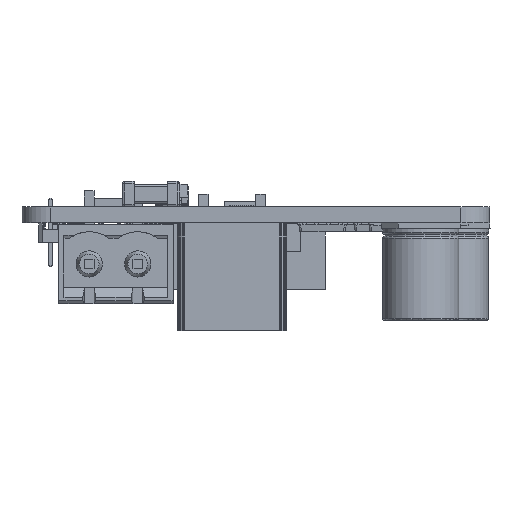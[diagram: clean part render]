
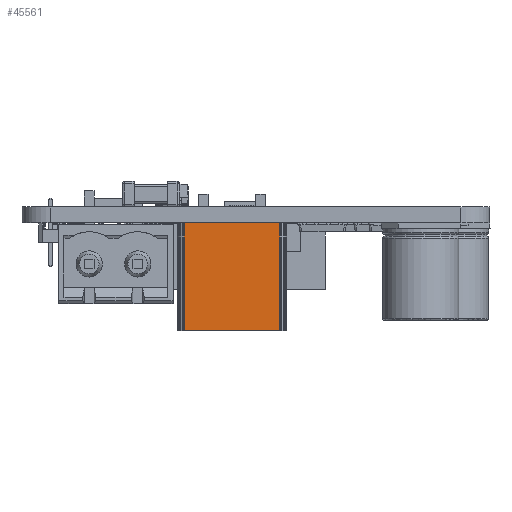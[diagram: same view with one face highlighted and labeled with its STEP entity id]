
A CAD part, front view. The second image highlights one B-rep face of the part: STEP entity #45561.
In plain terms, the highlighted planar face has unit normal (0, -1, 0).
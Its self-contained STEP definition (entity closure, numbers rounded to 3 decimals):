
#3486=FACE_OUTER_BOUND('',#5944,.T.);
#5944=EDGE_LOOP('',(#30642,#30643,#30644,#30645));
#8543=LINE('',#64228,#13854);
#8545=LINE('',#64232,#13856);
#8546=LINE('',#64234,#13857);
#8547=LINE('',#64235,#13858);
#13854=VECTOR('',#52053,1.);
#13856=VECTOR('',#52057,1.);
#13857=VECTOR('',#52058,1.);
#13858=VECTOR('',#52059,1.);
#19159=VERTEX_POINT('',#64225);
#19160=VERTEX_POINT('',#64227);
#19161=VERTEX_POINT('',#64231);
#19162=VERTEX_POINT('',#64233);
#23699=EDGE_CURVE('',#19160,#19159,#8543,.T.);
#23701=EDGE_CURVE('',#19159,#19161,#8545,.T.);
#23702=EDGE_CURVE('',#19162,#19161,#8546,.T.);
#23703=EDGE_CURVE('',#19160,#19162,#8547,.T.);
#30642=ORIENTED_EDGE('',*,*,#23699,.T.);
#30643=ORIENTED_EDGE('',*,*,#23701,.T.);
#30644=ORIENTED_EDGE('',*,*,#23702,.F.);
#30645=ORIENTED_EDGE('',*,*,#23703,.F.);
#43793=PLANE('',#48313);
#45561=ADVANCED_FACE('',(#3486),#43793,.T.);
#48313=AXIS2_PLACEMENT_3D('',#64230,#52055,#52056);
#52053=DIRECTION('',(0.,0.,1.));
#52055=DIRECTION('center_axis',(0.,-1.,
0.));
#52056=DIRECTION('ref_axis',(-1.,0.,0.));
#52057=DIRECTION('',(-1.,0.,0.));
#52058=DIRECTION('',(0.,0.,1.));
#52059=DIRECTION('',(-1.,0.,0.));
#64225=CARTESIAN_POINT('',(5.001,-7.,11.3));
#64227=CARTESIAN_POINT('',(5.001,-7.,0.));
#64228=CARTESIAN_POINT('',(5.001,-7.,0.));
#64230=CARTESIAN_POINT('Origin',(5.001,-7.,0.));
#64231=CARTESIAN_POINT('',(-4.998,-7.,11.3));
#64232=CARTESIAN_POINT('',(5.001,-7.,11.3));
#64233=CARTESIAN_POINT('',(-4.998,-7.,0.));
#64234=CARTESIAN_POINT('',(-4.998,-7.,0.));
#64235=CARTESIAN_POINT('',(5.001,-7.,0.));
